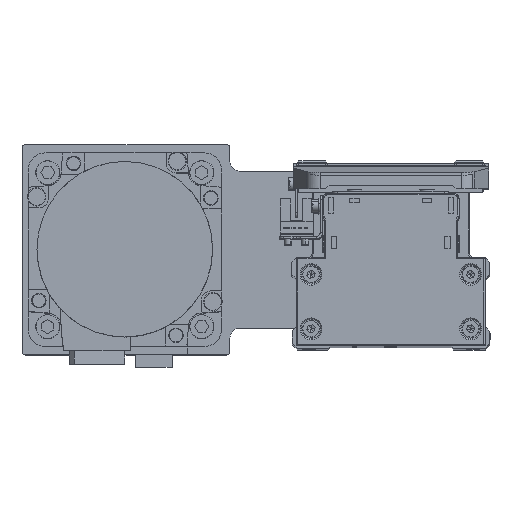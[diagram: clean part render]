
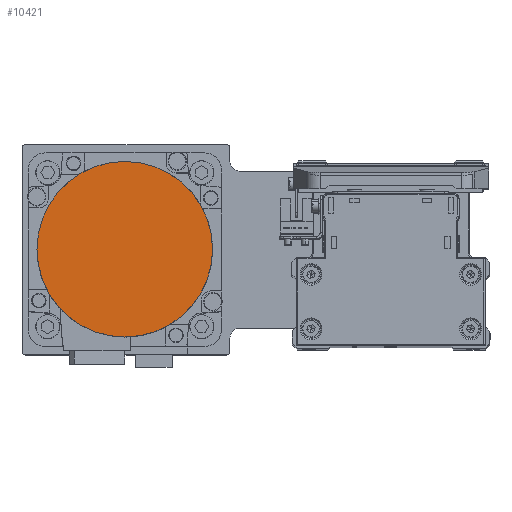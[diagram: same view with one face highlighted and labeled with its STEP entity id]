
A CAD part, top view. The second image highlights one B-rep face of the part: STEP entity #10421.
In plain terms, the highlighted planar face has unit normal (0, 0, 1) as drawn and (0, 0, -1) by its records, which use the part's own axes.
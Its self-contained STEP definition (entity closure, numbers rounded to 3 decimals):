
#1566 = AXIS2_PLACEMENT_3D ( 'NONE', #3345, #15453, #27550 ) ;
#2074 = DIRECTION ( 'NONE',  ( 1., 0., 0. ) ) ;
#2618 = DIRECTION ( 'NONE',  ( 0., 1., 0. ) ) ;
#2879 = AXIS2_PLACEMENT_3D ( 'NONE', #17162, #29263, #2074 ) ;
#3345 = CARTESIAN_POINT ( 'NONE',  ( 0., 0., -122.2 ) ) ;
#5032 = PLANE ( 'NONE',  #2879 ) ;
#5662 = ORIENTED_EDGE ( 'NONE', *, *, #14255, .F. ) ;
#6819 = ORIENTED_EDGE ( 'NONE', *, *, #8122, .F. ) ;
#7424 = VERTEX_POINT ( 'NONE', #13007 ) ;
#8122 = EDGE_CURVE ( 'NONE', #7424, #31973, #18675, .T. ) ;
#10421 = ADVANCED_FACE ( 'NONE', ( #32224 ), #5032, .F. ) ;
#11384 = CARTESIAN_POINT ( 'NONE',  ( 0., 36.3, -122.2 ) ) ;
#13007 = CARTESIAN_POINT ( 'NONE',  ( 0., -36.3, -122.2 ) ) ;
#14255 = EDGE_CURVE ( 'NONE', #31973, #7424, #32271, .T. ) ;
#15149 = AXIS2_PLACEMENT_3D ( 'NONE', #20690, #29809, #2618 ) ;
#15453 = DIRECTION ( 'NONE',  ( 0., 0., 1. ) ) ;
#15762 = EDGE_LOOP ( 'NONE', ( #5662, #6819 ) ) ;
#17162 = CARTESIAN_POINT ( 'NONE',  ( 0., 0., -122.2 ) ) ;
#18675 = CIRCLE ( 'NONE', #1566, 36.3 ) ;
#20690 = CARTESIAN_POINT ( 'NONE',  ( 0., 0., -122.2 ) ) ;
#27550 = DIRECTION ( 'NONE',  ( 0., -1., 0. ) ) ;
#29263 = DIRECTION ( 'NONE',  ( 0., 0., 1. ) ) ;
#29809 = DIRECTION ( 'NONE',  ( 0., 0., 1. ) ) ;
#31973 = VERTEX_POINT ( 'NONE', #11384 ) ;
#32224 = FACE_OUTER_BOUND ( 'NONE', #15762, .T. ) ;
#32271 = CIRCLE ( 'NONE', #15149, 36.3 ) ;
